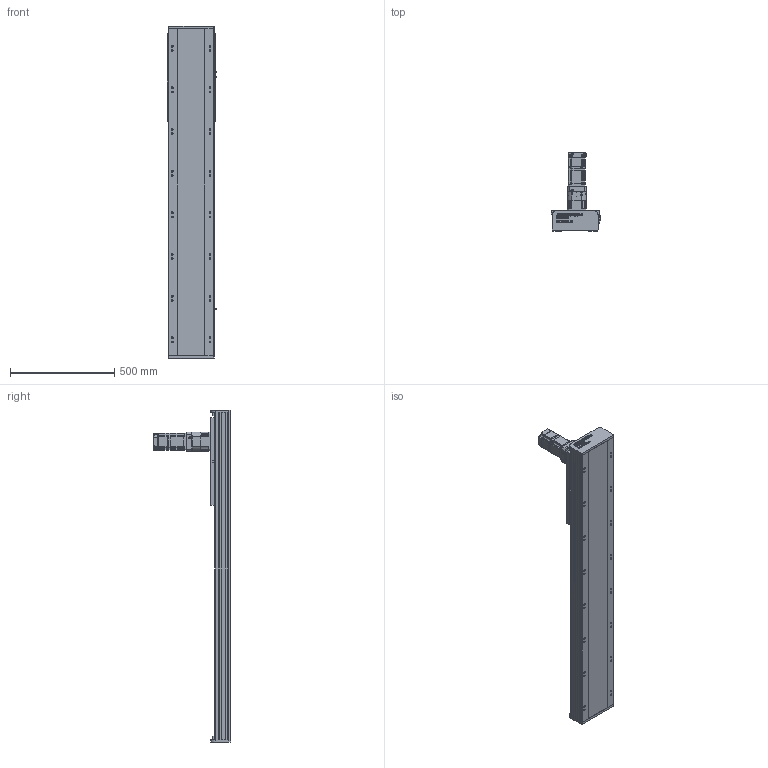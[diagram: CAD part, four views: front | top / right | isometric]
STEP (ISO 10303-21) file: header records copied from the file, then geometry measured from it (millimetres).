
FILE_DESCRIPTION (( 'STEP AP214' ), '1' );
FILE_NAME ('SHS220-S1100.step', '2022-12-05T08:42:21', ( '' ), ( '' ), 'SwSTEP 2.0', 'SolidWorks 2020', '' );
FILE_SCHEMA (( 'AUTOMOTIVE_DESIGN' ));
Length unit declared in the file: millimetre
Products named in the file (9): SGMJV-08A3A6E.step; SHS220-S1100.step; SHS220____.step; _SVR-MX33_b.step; SHS220-DZ-1100.step; SHS220-S1100; 錨璃161^SHS220-S1100; SHS220______.step; SB-90-3-P2-C20807_203.step
Assembly tree (14 placements, depth 3):
  SHS220-S1100
    SHS220-S1100.step
      SHS220-DZ-1100.step
      SB-90-3-P2-C20807_203.step
      SGMJV-08A3A6E.step
      SHS220______.step
      SHS220____.step
      _SVR-MX33_b.step  x7
    錨璃161^SHS220-S1100
Bounding box: 238.7 x 372.6 x 1594.2 mm (x, y, z)
Volume: 15425328.6 mm3; surface area: 2826701.1 mm2
Topology: 98 solids, 115 shells, 5103 faces, 13797 edges, 8977 vertices
Faces by surface type: plane 2787, cylinder 1261, bspline 614, cone 441
Entity records: 170090 total; most frequent: CARTESIAN_POINT 54521, ORIENTED_EDGE 21070, DIRECTION 17977, EDGE_CURVE 10535, VECTOR 7003, LINE 7003, VERTEX_POINT 6925, AXIS2_PLACEMENT_3D 5487
